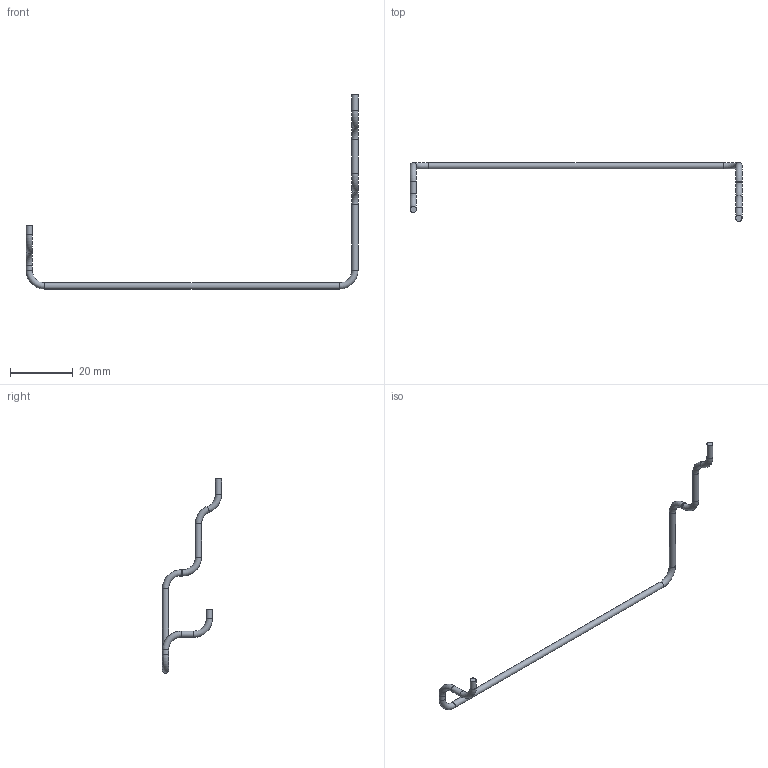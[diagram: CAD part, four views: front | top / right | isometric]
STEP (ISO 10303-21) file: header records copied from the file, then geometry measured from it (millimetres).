
FILE_DESCRIPTION(('Open CASCADE Model'),'2;1');
FILE_NAME('Open CASCADE Shape Model','2026-10-07T05:38:01',('Author'),( 'Open CASCADE'),'Open CASCADE STEP processor 7.7','Open CASCADE 7.7' ,'Unknown');
FILE_SCHEMA(('AUTOMOTIVE_DESIGN { 1 0 10303 214 1 1 1 1 }'));
Length unit declared in the file: millimetre
Products named in the file (1): Open CASCADE STEP translator 7.7 3
Bounding box: 106 x 18.9 x 62 mm (x, y, z)
Volume: 624.3 mm3; surface area: 1254.9 mm2
Topology: 1 solids, 1 shells, 18 faces, 33 edges, 17 vertices
Faces by surface type: cylinder 8, torus 8, plane 2
Full cylindrical faces by diameter (mm): 2 x8
Entity records: 850 total; most frequent: CARTESIAN_POINT 166, DIRECTION 131, ORIENTED_EDGE 66, PCURVE 66, DEFINITIONAL_REPRESENTATION 66, AXIS2_PLACEMENT_3D 44, LINE 41, VECTOR 41
